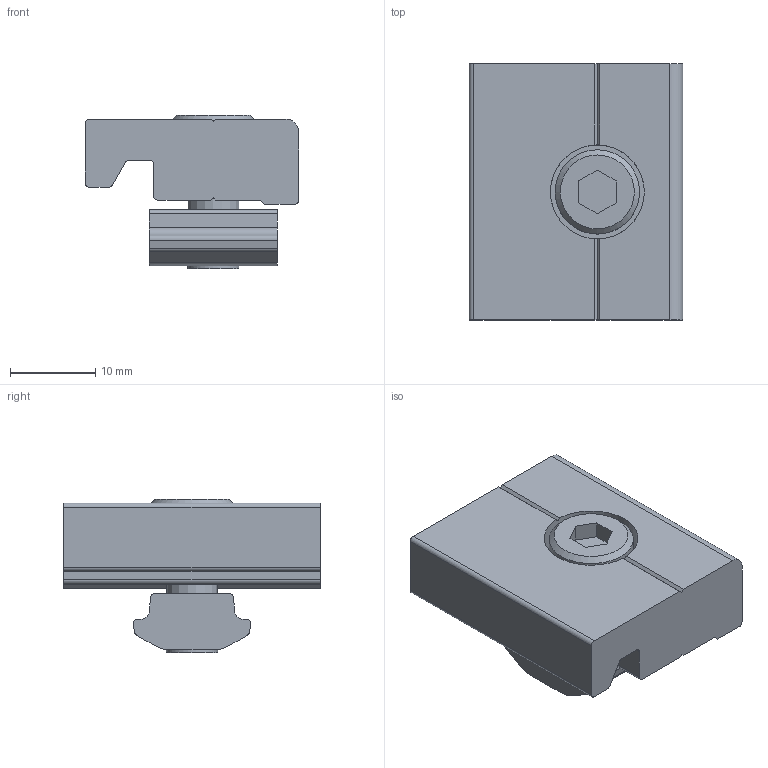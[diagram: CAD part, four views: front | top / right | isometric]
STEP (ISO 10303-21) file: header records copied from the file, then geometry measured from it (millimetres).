
FILE_DESCRIPTION(('STEP AP214'),'1');
FILE_NAME('SL3B-L30.stp','2017-07-26T07:21:22',(' '),(' '),'Spatial InterOp 3D',' ',' ');
FILE_SCHEMA(('automotive_design'));
Length unit declared in the file: millimetre
Products named in the file (4): SL3B-L30; SL3H-L30; ねじ: 穴付き - M6.0 x 12.0; NF40-M6
Assembly tree (3 placements, depth 2):
  SL3B-L30
    SL3H-L30
    ねじ: 穴付き - M6.0 x 12.0
    NF40-M6
Bounding box: 25 x 30 x 17.93 mm (x, y, z)
Volume: 7409.1 mm3; surface area: 4159.3 mm2
Topology: 3 solids, 3 shells, 70 faces, 189 edges, 125 vertices
Faces by surface type: plane 46, cylinder 22, cone 2
Full cylindrical faces by diameter (mm): 6 x1, 6.6 x1, 9.87 x1, 11 x1
Entity records: 2835 total; most frequent: CARTESIAN_POINT 398, DIRECTION 386, ORIENTED_EDGE 364, EDGE_CURVE 182, AXIS2_PLACEMENT_3D 132, VERTEX_POINT 124, LINE 122, VECTOR 122
